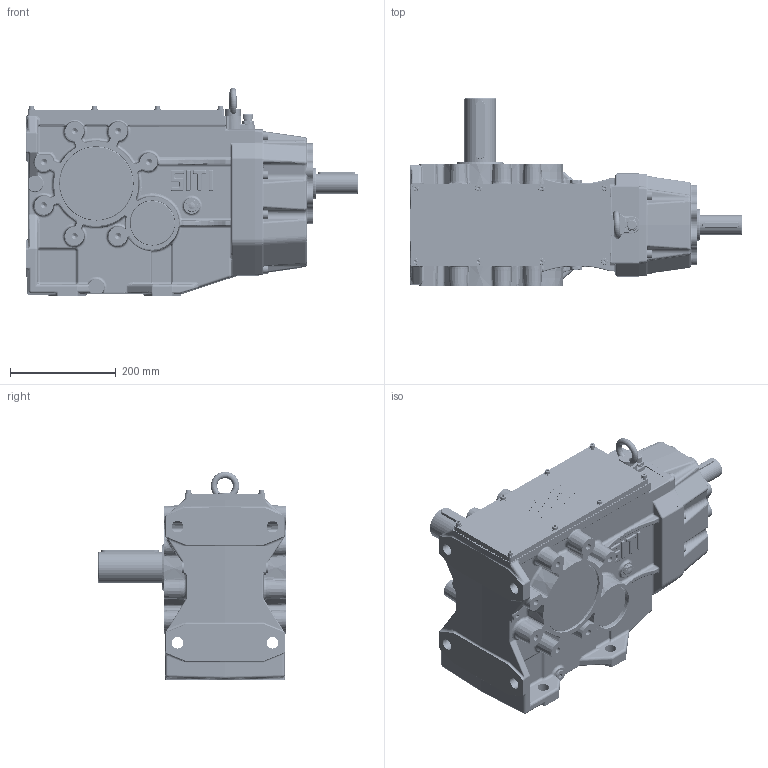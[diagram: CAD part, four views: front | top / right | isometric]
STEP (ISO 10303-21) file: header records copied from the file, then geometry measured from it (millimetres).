
FILE_DESCRIPTION((''),'2;1');
FILE_NAME('O:\Figurini\Figurini BH\3D\125\BH 125 MS-A.stp','2013-05-09T12:06:42',('d.iannaccio'),(''),'Autodesk Inventor 2012','Autodesk Inventor 2012','');
FILE_SCHEMA(('AUTOMOTIVE_DESIGN { 1 0 10303 214 1 1 1 1 }'));
Length unit declared in the file: millimetre
Products named in the file (1): BH_125 MS-A
Bounding box: 629.01 x 355 x 394.98 mm (x, y, z)
Volume: 9714355.8 mm3; surface area: 1759204.1 mm2
Topology: 47 solids, 49 shells, 3863 faces, 9206 edges, 5359 vertices
Faces by surface type: cylinder 1140, plane 984, bspline 969, torus 357, cone 235, sphere 178
Full cylindrical faces by diameter (mm): 4.917 x8, 6 x16, 6.4 x8, 6.647 x8, 6.87 x1, 7 x8, 8 x1, 8.376 x8, 8.4 x1, 10 x20, 10.106 x3, 11 x10, 11.835 x14, 12 x8, 12.5 x8, 14.95 x8, 16 x9, 17.835 x2, 19 x1, 19.5 x1, 20 x1, 21 x2, 22 x8, 30 x2, 37.5 x1, 38 x1, 39.386 x1, 39.986 x2, 54.765 x1, 57 x1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
Entity records: 140234 total; most frequent: CARTESIAN_POINT 54605, ORIENTED_EDGE 16852, DIRECTION 16368, EDGE_CURVE 8426, AXIS2_PLACEMENT_3D 6788, VERTEX_POINT 5186, EDGE_LOOP 4460, STYLED_ITEM 3909
